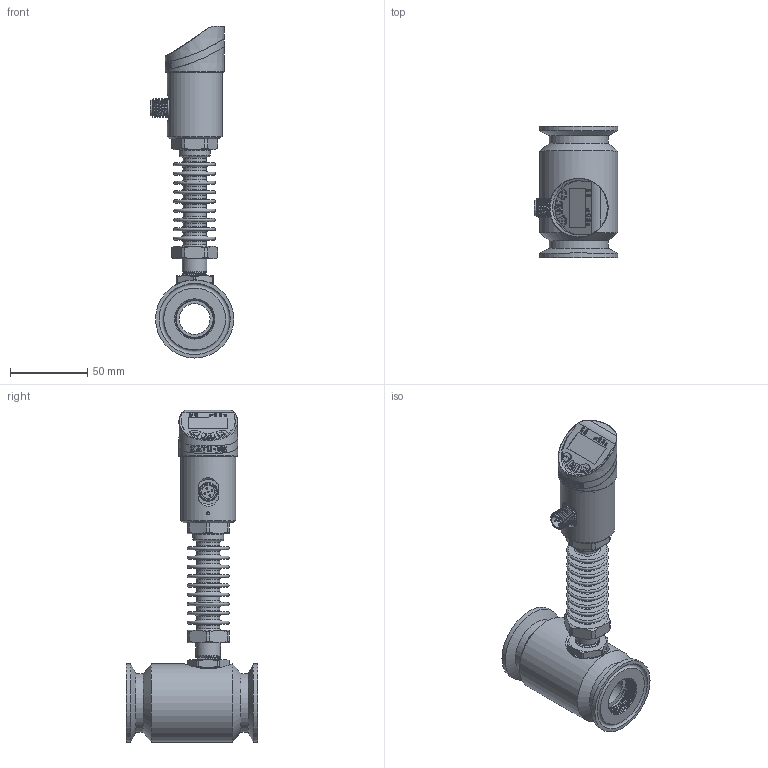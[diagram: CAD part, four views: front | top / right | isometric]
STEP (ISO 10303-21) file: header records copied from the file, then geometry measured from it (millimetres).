
FILE_DESCRIPTION( (''), '2;1');
FILE_NAME( 'QTKE_DN20_tri-clamp_high-temp.step', '2024-10-14T16:41:43+08:00', (''), (''), '', '', '');
FILE_SCHEMA (('AUTOMOTIVE_DESIGN { 1 0 10303 214 3 1 1 1 }'));
Length unit declared in the file: millimetre
Products named in the file (1): QTKE DN20_tri-clamp_high-temp
Bounding box: 53.91 x 85 x 214.75 mm (x, y, z)
Volume: 162971.5 mm3; surface area: 69720.8 mm2
Topology: 5 solids, 5 shells, 1007 faces, 2564 edges, 1664 vertices
Faces by surface type: plane 407, cylinder 176, extrusion 160, cone 114, bspline 67, torus 62, sphere 21
Full cylindrical faces by diameter (mm): 1.689 x1, 2 x1, 2.7 x6, 3.5 x5, 12 x1, 13 x1, 15 x10, 15.9 x1, 17 x1, 20 x2, 23 x3, 26 x7, 31.7 x1, 32 x1, 34 x1, 34.2 x1, 35.5 x2, 38 x2, 50.5 x3
Entity records: 52164 total; most frequent: CARTESIAN_POINT 25178, ORIENTED_EDGE 4718, DIRECTION 4120, EDGE_CURVE 2359, VERTEX_POINT 1603, AXIS2_PLACEMENT_3D 1478, EDGE_LOOP 1258, VECTOR 1164
